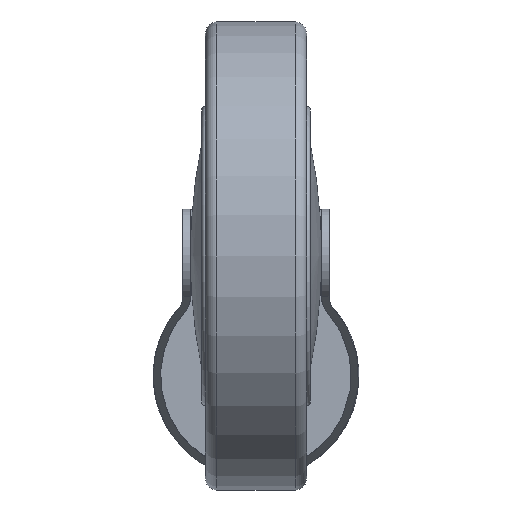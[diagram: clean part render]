
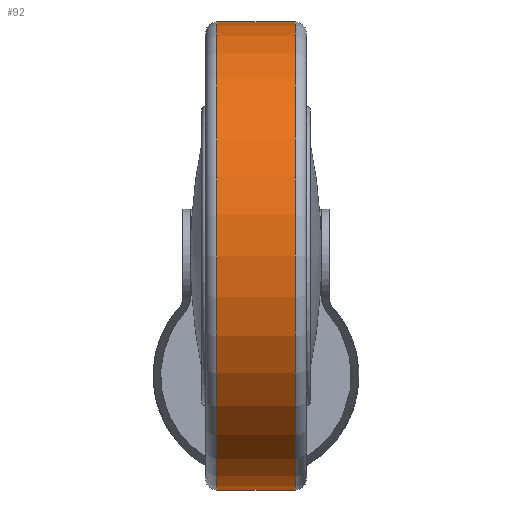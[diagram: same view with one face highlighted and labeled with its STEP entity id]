
A CAD part, front view. The second image highlights one B-rep face of the part: STEP entity #92.
In plain terms, the highlighted cylindrical face has radius 62.5 mm (diameter 125 mm), a partial arc.
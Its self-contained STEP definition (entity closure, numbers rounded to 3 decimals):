
#92 = ADVANCED_FACE ( 'NONE', ( #743 ), #748, .T. ) ;
#235 = CIRCLE ( 'NONE', #309, 62.5 ) ;
#236 = CIRCLE ( 'NONE', #311, 62.5 ) ;
#309 = AXIS2_PLACEMENT_3D ( 'NONE', #1130, #1134, #1135 ) ;
#310 = VECTOR ( 'NONE', #1118, 1000. ) ;
#311 = AXIS2_PLACEMENT_3D ( 'NONE', #1136, #1137, #1138 ) ;
#312 = VECTOR ( 'NONE', #1121, 1000. ) ;
#577 = EDGE_CURVE ( 'NONE', #1699, #1705, #1116, .T. ) ;
#578 = EDGE_CURVE ( 'NONE', #1698, #1704, #1119, .T. ) ;
#583 = EDGE_CURVE ( 'NONE', #1699, #1698, #235, .T. ) ;
#584 = EDGE_CURVE ( 'NONE', #1704, #1705, #236, .T. ) ;
#743 = FACE_OUTER_BOUND ( 'NONE', #1791, .T. ) ;
#747 = AXIS2_PLACEMENT_3D ( 'NONE', #879, #880, #881 ) ;
#748 = CYLINDRICAL_SURFACE ( 'NONE', #747, 62.5 ) ;
#879 = CARTESIAN_POINT ( 'NONE',  ( 13.5, 0., 0. ) ) ;
#880 = DIRECTION ( 'NONE',  ( -1., 0., 0. ) ) ;
#881 = DIRECTION ( 'NONE',  ( 0., 0., 1. ) ) ;
#1116 = LINE ( 'NONE', #1117, #310 ) ;
#1117 = CARTESIAN_POINT ( 'NONE',  ( 13.5, 0., -62.5 ) ) ;
#1118 = DIRECTION ( 'NONE',  ( -1., 0., 0. ) ) ;
#1119 = LINE ( 'NONE', #1120, #312 ) ;
#1120 = CARTESIAN_POINT ( 'NONE',  ( 13.5, 0., 62.5 ) ) ;
#1121 = DIRECTION ( 'NONE',  ( -1., 0., 0. ) ) ;
#1130 = CARTESIAN_POINT ( 'NONE',  ( 10.5, 0., 0. ) ) ;
#1134 = DIRECTION ( 'NONE',  ( -1., 0., 0. ) ) ;
#1135 = DIRECTION ( 'NONE',  ( 0., 0., -1. ) ) ;
#1136 = CARTESIAN_POINT ( 'NONE',  ( -10.5, 0., 0. ) ) ;
#1137 = DIRECTION ( 'NONE',  ( 1., 0., 0. ) ) ;
#1138 = DIRECTION ( 'NONE',  ( 0., 0., -1. ) ) ;
#1347 = CARTESIAN_POINT ( 'NONE',  ( 10.5, 0., 62.5 ) ) ;
#1348 = CARTESIAN_POINT ( 'NONE',  ( 10.5, 0., -62.5 ) ) ;
#1353 = CARTESIAN_POINT ( 'NONE',  ( -10.5, 0., 62.5 ) ) ;
#1354 = CARTESIAN_POINT ( 'NONE',  ( -10.5, 0., -62.5 ) ) ;
#1441 = ORIENTED_EDGE ( 'NONE', *, *, #578, .T. ) ;
#1442 = ORIENTED_EDGE ( 'NONE', *, *, #577, .F. ) ;
#1443 = ORIENTED_EDGE ( 'NONE', *, *, #583, .T. ) ;
#1444 = ORIENTED_EDGE ( 'NONE', *, *, #584, .T. ) ;
#1698 = VERTEX_POINT ( 'NONE', #1347 ) ;
#1699 = VERTEX_POINT ( 'NONE', #1348 ) ;
#1704 = VERTEX_POINT ( 'NONE', #1353 ) ;
#1705 = VERTEX_POINT ( 'NONE', #1354 ) ;
#1791 = EDGE_LOOP ( 'NONE', ( #1442, #1443, #1441, #1444 ) ) ;
